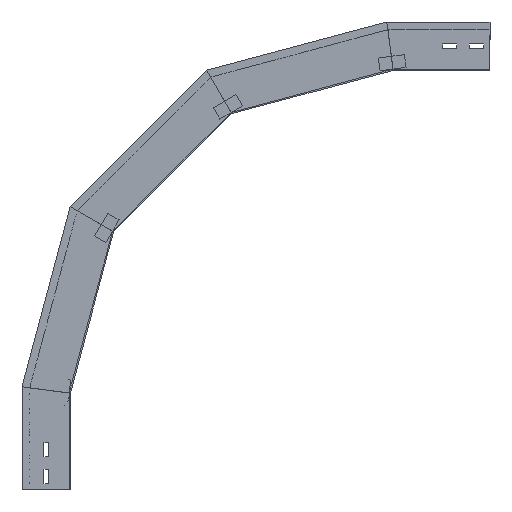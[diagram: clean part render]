
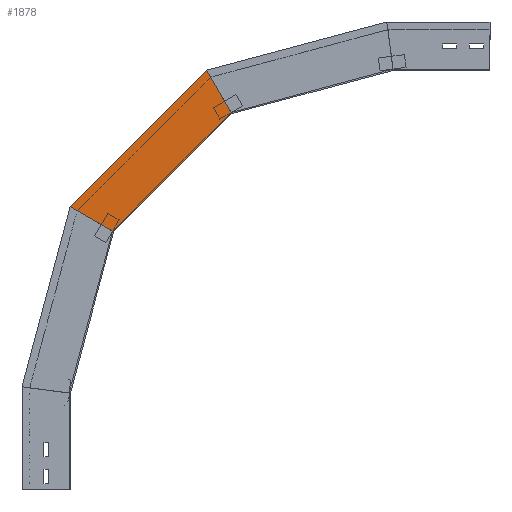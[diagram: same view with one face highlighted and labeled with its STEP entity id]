
A CAD part, left-side view. The second image highlights one B-rep face of the part: STEP entity #1878.
In plain terms, the highlighted planar face has unit normal (-1, 0, 0) as drawn and (1, 0, 0) by its records, which use the part's own axes.
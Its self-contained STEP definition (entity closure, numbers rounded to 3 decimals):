
#6 = CARTESIAN_POINT ( 'NONE',  ( 0., -250.175, 583.315 ) ) ;
#37 = CARTESIAN_POINT ( 'NONE',  ( 0., -127.544, 365.239 ) ) ;
#61 = CARTESIAN_POINT ( 'NONE',  ( 0., 1.701, 437.506 ) ) ;
#65 = EDGE_CURVE ( 'NONE', #104, #1413, #755, .T. ) ;
#66 = DIRECTION ( 'NONE',  ( 0., -0.5, -0.866 ) ) ;
#94 = FACE_OUTER_BOUND ( 'NONE', #1887, .T. ) ;
#104 = VERTEX_POINT ( 'NONE', #288 ) ;
#146 = CARTESIAN_POINT ( 'NONE',  ( 0., -51.332, 384.473 ) ) ;
#288 = CARTESIAN_POINT ( 'NONE',  ( 0., 0.209, 438.998 ) ) ;
#552 = VECTOR ( 'NONE', #730, 1000. ) ;
#559 = ORIENTED_EDGE ( 'NONE', *, *, #773, .T. ) ;
#599 = VECTOR ( 'NONE', #643, 1000. ) ;
#603 = VECTOR ( 'NONE', #66, 1000. ) ;
#610 = VERTEX_POINT ( 'NONE', #6 ) ;
#643 = DIRECTION ( 'NONE',  ( 0., -0.707, 0.707 ) ) ;
#657 = CARTESIAN_POINT ( 'NONE',  ( 0., -286.565, 520.285 ) ) ;
#685 = DIRECTION ( 'NONE',  ( 0., 0., -1. ) ) ;
#730 = DIRECTION ( 'NONE',  ( 0., -0.707, 0.707 ) ) ;
#751 = LINE ( 'NONE', #146, #552 ) ;
#755 = LINE ( 'NONE', #37, #1835 ) ;
#765 = VERTEX_POINT ( 'NONE', #953 ) ;
#773 = EDGE_CURVE ( 'NONE', #765, #610, #1081, .T. ) ;
#836 = DIRECTION ( 'NONE',  ( 1., 0., 0. ) ) ;
#953 = CARTESIAN_POINT ( 'NONE',  ( 0., -211.352, 650.559 ) ) ;
#1081 = LINE ( 'NONE', #657, #603 ) ;
#1133 = CARTESIAN_POINT ( 'NONE',  ( 0., -51.332, 384.473 ) ) ;
#1163 = CARTESIAN_POINT ( 'NONE',  ( 0., -67.034, 400.175 ) ) ;
#1367 = ORIENTED_EDGE ( 'NONE', *, *, #1760, .T. ) ;
#1368 = LINE ( 'NONE', #61, #599 ) ;
#1413 = VERTEX_POINT ( 'NONE', #1163 ) ;
#1489 = AXIS2_PLACEMENT_3D ( 'NONE', #1133, #836, #685 ) ;
#1537 = EDGE_CURVE ( 'NONE', #1413, #610, #751, .T. ) ;
#1545 = ORIENTED_EDGE ( 'NONE', *, *, #1537, .F. ) ;
#1691 = ORIENTED_EDGE ( 'NONE', *, *, #65, .F. ) ;
#1760 = EDGE_CURVE ( 'NONE', #104, #765, #1368, .T. ) ;
#1770 = DIRECTION ( 'NONE',  ( 0., -0.866, -0.5 ) ) ;
#1835 = VECTOR ( 'NONE', #1770, 1000. ) ;
#1863 = PLANE ( 'NONE',  #1489 ) ;
#1878 = ADVANCED_FACE ( 'NONE', ( #94 ), #1863, .T. ) ;
#1887 = EDGE_LOOP ( 'NONE', ( #1367, #559, #1545, #1691 ) ) ;
